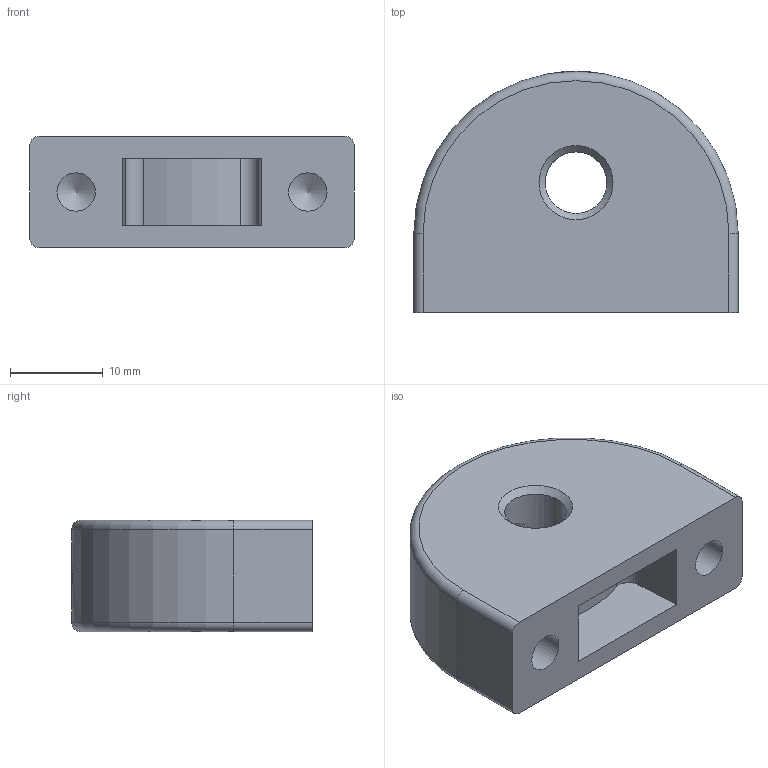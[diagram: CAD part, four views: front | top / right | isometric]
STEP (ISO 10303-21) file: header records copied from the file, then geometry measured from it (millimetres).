
FILE_DESCRIPTION( ( 'STEP AP203' ), '1' );
FILE_NAME( 'C:/Temp/Ganter_Step_05_03_2020/data/3_1/gn412_1/Mounting block GN 412.1-35-M8-2.stp', '2020-03-12T08:30:54', ( 'License CC BY-ND 4.0' ), ( 'CADENAS' ), ' ', 'PARTsolutions', ' ' );
FILE_SCHEMA( ( 'CONFIG_CONTROL_DESIGN' ) );
Length unit declared in the file: millimetre
Products named in the file (1): _Mounting block GN 412.1-35-M8-2
Bounding box: 35 x 26 x 12 mm (x, y, z)
Volume: 7756.3 mm3; surface area: 3644.4 mm2
Topology: 1 solids, 1 shells, 42 faces, 94 edges, 59 vertices
Faces by surface type: plane 19, cylinder 15, cone 6, torus 2
Full cylindrical faces by diameter (mm): 2.5 x1, 4 x2, 4.134 x2, 6.647 x1, 8.2 x1
Entity records: 1242 total; most frequent: CARTESIAN_POINT 291, DIRECTION 196, ORIENTED_EDGE 158, EDGE_CURVE 79, AXIS2_PLACEMENT_3D 76, EDGE_LOOP 62, VERTEX_POINT 59, FACE_OUTER_BOUND 49
